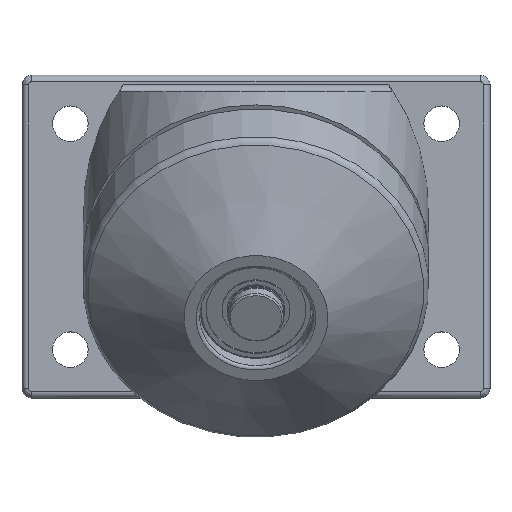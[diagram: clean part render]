
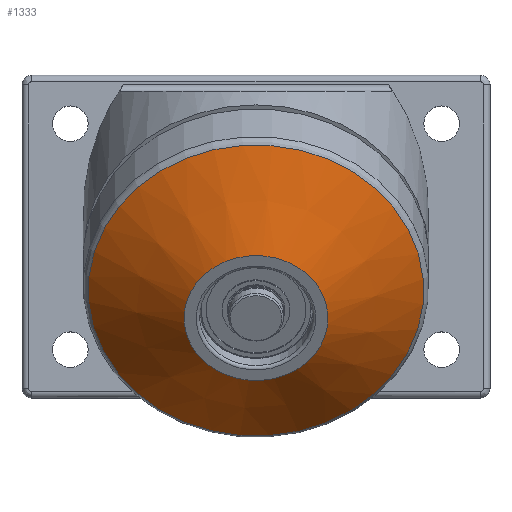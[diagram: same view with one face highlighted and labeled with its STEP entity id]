
A CAD part, top view. The second image highlights one B-rep face of the part: STEP entity #1333.
In plain terms, the highlighted conical face has half-angle 60 degrees and reference radius 37.911 mm.
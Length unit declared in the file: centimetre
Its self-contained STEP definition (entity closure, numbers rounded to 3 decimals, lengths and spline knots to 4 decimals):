
#94=CONICAL_SURFACE('',#1461,3.7912,60.);
#205=FACE_BOUND('',#407,.T.);
#283=FACE_OUTER_BOUND('',#406,.T.);
#406=EDGE_LOOP('',(#952));
#407=EDGE_LOOP('',(#953));
#556=CIRCLE('',#1451,2.2323);
#561=CIRCLE('',#1460,5.2);
#658=VERTEX_POINT('',#2121);
#663=VERTEX_POINT('',#2135);
#776=EDGE_CURVE('',#658,#658,#556,.T.);
#781=EDGE_CURVE('',#663,#663,#561,.T.);
#952=ORIENTED_EDGE('',*,*,#776,.F.);
#953=ORIENTED_EDGE('',*,*,#781,.F.);
#1333=ADVANCED_FACE('',(#283,#205),#94,.T.);
#1451=AXIS2_PLACEMENT_3D('',#2122,#1700,#1701);
#1460=AXIS2_PLACEMENT_3D('',#2136,#1718,#1719);
#1461=AXIS2_PLACEMENT_3D('',#2137,#1720,#1721);
#1700=DIRECTION('center_axis',(0.,-0.5,0.866));
#1701=DIRECTION('ref_axis',(0.251,-0.838,-0.484));
#1718=DIRECTION('center_axis',(0.,0.5,-0.866));
#1719=DIRECTION('ref_axis',(0.251,-0.838,-0.484));
#1720=DIRECTION('center_axis',(0.,0.5,-0.866));
#1721=DIRECTION('ref_axis',(-0.251,0.838,0.484));
#2121=CARTESIAN_POINT('',(-0.5598,0.1715,7.964));
#2122=CARTESIAN_POINT('Origin',(0.,-1.7,6.8835));
#2135=CARTESIAN_POINT('',(-1.3041,3.5161,7.9166));
#2136=CARTESIAN_POINT('Origin',(0.,-0.8433,
5.3996));
#2137=CARTESIAN_POINT('Origin',(0.,-1.25,6.1041));
